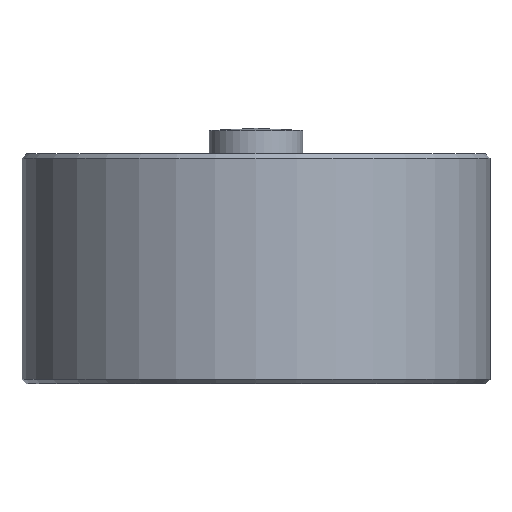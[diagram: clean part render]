
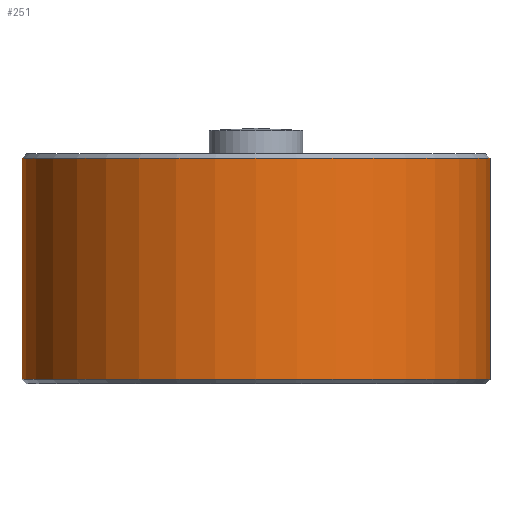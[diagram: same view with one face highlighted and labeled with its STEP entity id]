
A CAD part, front view. The second image highlights one B-rep face of the part: STEP entity #251.
In plain terms, the highlighted cylindrical face has radius 27.5 mm (diameter 55 mm), a full revolution.
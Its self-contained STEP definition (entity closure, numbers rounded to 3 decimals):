
#251 = ADVANCED_FACE( '', ( #710, #711, #712 ), #713, .T. );
#710 = FACE_OUTER_BOUND( '', #1370, .T. );
#711 = FACE_OUTER_BOUND( '', #1371, .T. );
#712 = FACE_BOUND( '', #1372, .T. );
#713 = CYLINDRICAL_SURFACE( '', #1373, 27.5 );
#1370 = EDGE_LOOP( '', ( #2301 ) );
#1371 = EDGE_LOOP( '', ( #2302 ) );
#1372 = EDGE_LOOP( '', ( #2303 ) );
#1373 = AXIS2_PLACEMENT_3D( '', #2304, #2305, #2306 );
#2301 = ORIENTED_EDGE( '', *, *, #2958, .T. );
#2302 = ORIENTED_EDGE( '', *, *, #2959, .T. );
#2303 = ORIENTED_EDGE( '', *, *, #2960, .F. );
#2304 = CARTESIAN_POINT( '', ( 0., 0., -14.25 ) );
#2305 = DIRECTION( '', ( 0., 0., -1. ) );
#2306 = DIRECTION( '', ( 0., -1., 0. ) );
#2958 = EDGE_CURVE( '', #3088, #3088, #3089, .F. );
#2959 = EDGE_CURVE( '', #3090, #3090, #3091, .F. );
#2960 = EDGE_CURVE( '', #3092, #3092, #3093, .T. );
#3088 = VERTEX_POINT( '', #3237 );
#3089 = CIRCLE( '', #3238, 27.5 );
#3090 = VERTEX_POINT( '', #3239 );
#3091 = CIRCLE( '', #3240, 27.5 );
#3092 = VERTEX_POINT( '', #3241 );
#3093 = B_SPLINE_CURVE_WITH_KNOTS( '', 3, ( #3242, #3243, #3244, #3245, #3246, #3247, #3248, #3249, #3250, #3251, #3252, #3253, #3254, #3255, #3256, #3257, #3258, #3259, #3260, #3261, #3262, #3263, #3264, #3265, #3266, #3267, #3268, #3269, #3270, #3271, #3272, #3273, #3274, #3275, #3276, #3277, #3278, #3279, #3280, #3281, #3282, #3283, #3284, #3285, #3286, #3287, #3288, #3289, #3290, #3291, #3292, #3293, #3294, #3295, #3296, #3297, #3298, #3299, #3300, #3301, #3302, #3303, #3304, #3305, #3306, #3307 ), .UNSPECIFIED., .T., .F., ( 2, 2, 2, 2, 2, 2, 2, 2, 2, 2, 2, 2, 2, 2, 2, 2, 2, 2, 2, 2, 2, 2, 2, 2, 2, 2, 2, 2, 2, 2, 2, 2, 2, 2, 2 ), ( -0.001, 0., 0.001, 0.002, 0.002, 0.003, 0.004, 0.005, 0.005, 0.006, 0.007, 0.008, 0.009, 0.009, 0.01, 0.011, 0.012, 0.013, 0.013, 0.014, 0.015, 0.016, 0.016, 0.017, 0.018, 0.019, 0.02, 0.02, 0.021, 0.022, 0.023, 0.023, 0.024, 0.025, 0.026 ), .UNSPECIFIED. );
#3237 = CARTESIAN_POINT( '', ( 0., -27.5, 26.5 ) );
#3238 = AXIS2_PLACEMENT_3D( '', #3446, #3447, #3448 );
#3239 = CARTESIAN_POINT( '', ( 0., 27.5, 0.5 ) );
#3240 = AXIS2_PLACEMENT_3D( '', #3449, #3450, #3451 );
#3241 = CARTESIAN_POINT( '', ( 0., 27.5, 13. ) );
#3242 = CARTESIAN_POINT( '', ( -0.265, 27.5, 13. ) );
#3243 = CARTESIAN_POINT( '', ( 0.265, 27.5, 13. ) );
#3244 = CARTESIAN_POINT( '', ( 0.525, 27.496, 12.974 ) );
#3245 = CARTESIAN_POINT( '', ( 1.036, 27.482, 12.872 ) );
#3246 = CARTESIAN_POINT( '', ( 1.291, 27.471, 12.795 ) );
#3247 = CARTESIAN_POINT( '', ( 1.775, 27.444, 12.594 ) );
#3248 = CARTESIAN_POINT( '', ( 2.005, 27.428, 12.471 ) );
#3249 = CARTESIAN_POINT( '', ( 2.439, 27.392, 12.181 ) );
#3250 = CARTESIAN_POINT( '', ( 2.645, 27.373, 12.012 ) );
#3251 = CARTESIAN_POINT( '', ( 3.013, 27.335, 11.644 ) );
#3252 = CARTESIAN_POINT( '', ( 3.178, 27.316, 11.443 ) );
#3253 = CARTESIAN_POINT( '', ( 3.471, 27.28, 11.006 ) );
#3254 = CARTESIAN_POINT( '', ( 3.595, 27.264, 10.773 ) );
#3255 = CARTESIAN_POINT( '', ( 3.794, 27.237, 10.292 ) );
#3256 = CARTESIAN_POINT( '', ( 3.871, 27.226, 10.04 ) );
#3257 = CARTESIAN_POINT( '', ( 3.974, 27.211, 9.523 ) );
#3258 = CARTESIAN_POINT( '', ( 4., 27.208, 9.264 ) );
#3259 = CARTESIAN_POINT( '', ( 4., 27.208, 8.741 ) );
#3260 = CARTESIAN_POINT( '', ( 3.974, 27.211, 8.476 ) );
#3261 = CARTESIAN_POINT( '', ( 3.872, 27.226, 7.962 ) );
#3262 = CARTESIAN_POINT( '', ( 3.796, 27.237, 7.713 ) );
#3263 = CARTESIAN_POINT( '', ( 3.596, 27.264, 7.228 ) );
#3264 = CARTESIAN_POINT( '', ( 3.471, 27.281, 6.994 ) );
#3265 = CARTESIAN_POINT( '', ( 3.181, 27.316, 6.561 ) );
#3266 = CARTESIAN_POINT( '', ( 3.016, 27.335, 6.359 ) );
#3267 = CARTESIAN_POINT( '', ( 2.643, 27.373, 5.986 ) );
#3268 = CARTESIAN_POINT( '', ( 2.441, 27.392, 5.821 ) );
#3269 = CARTESIAN_POINT( '', ( 2.009, 27.427, 5.531 ) );
#3270 = CARTESIAN_POINT( '', ( 1.775, 27.444, 5.406 ) );
#3271 = CARTESIAN_POINT( '', ( 1.291, 27.471, 5.205 ) );
#3272 = CARTESIAN_POINT( '', ( 1.041, 27.481, 5.129 ) );
#3273 = CARTESIAN_POINT( '', ( 0.528, 27.496, 5.026 ) );
#3274 = CARTESIAN_POINT( '', ( 0.263, 27.5, 5. ) );
#3275 = CARTESIAN_POINT( '', ( -0.26, 27.5, 5. ) );
#3276 = CARTESIAN_POINT( '', ( -0.52, 27.496, 5.025 ) );
#3277 = CARTESIAN_POINT( '', ( -1.036, 27.482, 5.128 ) );
#3278 = CARTESIAN_POINT( '', ( -1.289, 27.471, 5.204 ) );
#3279 = CARTESIAN_POINT( '', ( -1.77, 27.444, 5.404 ) );
#3280 = CARTESIAN_POINT( '', ( -2.003, 27.428, 5.528 ) );
#3281 = CARTESIAN_POINT( '', ( -2.44, 27.392, 5.82 ) );
#3282 = CARTESIAN_POINT( '', ( -2.641, 27.373, 5.985 ) );
#3283 = CARTESIAN_POINT( '', ( -3.01, 27.335, 6.353 ) );
#3284 = CARTESIAN_POINT( '', ( -3.179, 27.316, 6.559 ) );
#3285 = CARTESIAN_POINT( '', ( -3.47, 27.281, 6.992 ) );
#3286 = CARTESIAN_POINT( '', ( -3.593, 27.265, 7.222 ) );
#3287 = CARTESIAN_POINT( '', ( -3.794, 27.237, 7.706 ) );
#3288 = CARTESIAN_POINT( '', ( -3.871, 27.226, 7.96 ) );
#3289 = CARTESIAN_POINT( '', ( -3.974, 27.211, 8.472 ) );
#3290 = CARTESIAN_POINT( '', ( -4., 27.208, 8.732 ) );
#3291 = CARTESIAN_POINT( '', ( -4., 27.208, 9.261 ) );
#3292 = CARTESIAN_POINT( '', ( -3.974, 27.211, 9.521 ) );
#3293 = CARTESIAN_POINT( '', ( -3.873, 27.226, 10.033 ) );
#3294 = CARTESIAN_POINT( '', ( -3.796, 27.237, 10.287 ) );
#3295 = CARTESIAN_POINT( '', ( -3.596, 27.264, 10.772 ) );
#3296 = CARTESIAN_POINT( '', ( -3.473, 27.28, 11.001 ) );
#3297 = CARTESIAN_POINT( '', ( -3.183, 27.316, 11.436 ) );
#3298 = CARTESIAN_POINT( '', ( -3.015, 27.335, 11.642 ) );
#3299 = CARTESIAN_POINT( '', ( -2.647, 27.373, 12.011 ) );
#3300 = CARTESIAN_POINT( '', ( -2.446, 27.392, 12.176 ) );
#3301 = CARTESIAN_POINT( '', ( -2.008, 27.427, 12.469 ) );
#3302 = CARTESIAN_POINT( '', ( -1.777, 27.444, 12.593 ) );
#3303 = CARTESIAN_POINT( '', ( -1.296, 27.471, 12.793 ) );
#3304 = CARTESIAN_POINT( '', ( -1.043, 27.481, 12.871 ) );
#3305 = CARTESIAN_POINT( '', ( -0.526, 27.496, 12.974 ) );
#3306 = CARTESIAN_POINT( '', ( -0.265, 27.5, 13. ) );
#3307 = CARTESIAN_POINT( '', ( 0.265, 27.5, 13. ) );
#3446 = CARTESIAN_POINT( '', ( 0., 0., 26.5 ) );
#3447 = DIRECTION( '', ( 0., 0., 1. ) );
#3448 = DIRECTION( '', ( 0., -1., 0. ) );
#3449 = CARTESIAN_POINT( '', ( 0., 0., 0.5 ) );
#3450 = DIRECTION( '', ( 0., 0., -1. ) );
#3451 = DIRECTION( '', ( 0., 1., 0. ) );
